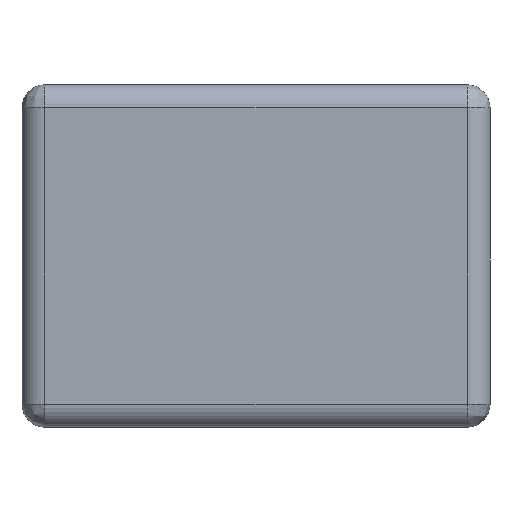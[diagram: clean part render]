
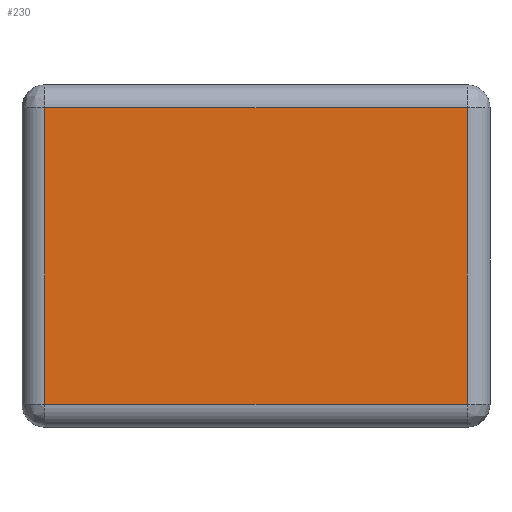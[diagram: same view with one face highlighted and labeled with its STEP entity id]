
A CAD part, top view. The second image highlights one B-rep face of the part: STEP entity #230.
In plain terms, the highlighted planar face has unit normal (0, 0, 1).
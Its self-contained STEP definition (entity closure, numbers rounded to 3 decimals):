
#6 = CARTESIAN_POINT ( 'NONE',  ( 22.5, 13., 3. ) ) ;
#10 = EDGE_CURVE ( 'NONE', #727, #255, #543, .T. ) ;
#19 = CARTESIAN_POINT ( 'NONE',  ( -22.5, -13., 3. ) ) ;
#23 = VECTOR ( 'NONE', #236, 1000. ) ;
#26 = CARTESIAN_POINT ( 'NONE',  ( -18.5, 13., 3. ) ) ;
#54 = CARTESIAN_POINT ( 'NONE',  ( -18.5, -13., 3. ) ) ;
#69 = VECTOR ( 'NONE', #479, 1000. ) ;
#72 = LINE ( 'NONE', #19, #714 ) ;
#100 = CARTESIAN_POINT ( 'NONE',  ( 18.5, 13., 3. ) ) ;
#138 = EDGE_LOOP ( 'NONE', ( #488, #258, #220, #675 ) ) ;
#171 = EDGE_CURVE ( 'NONE', #255, #267, #289, .T. ) ;
#220 = ORIENTED_EDGE ( 'NONE', *, *, #626, .F. ) ;
#230 = ADVANCED_FACE ( 'NONE', ( #317 ), #614, .T. ) ;
#236 = DIRECTION ( 'NONE',  ( 1., 0., 0. ) ) ;
#255 = VERTEX_POINT ( 'NONE', #26 ) ;
#258 = ORIENTED_EDGE ( 'NONE', *, *, #622, .F. ) ;
#267 = VERTEX_POINT ( 'NONE', #100 ) ;
#289 = LINE ( 'NONE', #6, #23 ) ;
#315 = VERTEX_POINT ( 'NONE', #739 ) ;
#317 = FACE_OUTER_BOUND ( 'NONE', #138, .T. ) ;
#320 = CARTESIAN_POINT ( 'NONE',  ( 0., 0., 3. ) ) ;
#362 = LINE ( 'NONE', #540, #69 ) ;
#430 = DIRECTION ( 'NONE',  ( 1., 0., 0. ) ) ;
#479 = DIRECTION ( 'NONE',  ( 0., -1., 0. ) ) ;
#488 = ORIENTED_EDGE ( 'NONE', *, *, #10, .F. ) ;
#540 = CARTESIAN_POINT ( 'NONE',  ( 18.5, 17., 3. ) ) ;
#543 = LINE ( 'NONE', #695, #666 ) ;
#560 = AXIS2_PLACEMENT_3D ( 'NONE', #320, #732, #430 ) ;
#614 = PLANE ( 'NONE',  #560 ) ;
#622 = EDGE_CURVE ( 'NONE', #315, #727, #72, .T. ) ;
#626 = EDGE_CURVE ( 'NONE', #267, #315, #362, .T. ) ;
#653 = DIRECTION ( 'NONE',  ( 0., 1., 0. ) ) ;
#657 = DIRECTION ( 'NONE',  ( -1., 0., 0. ) ) ;
#666 = VECTOR ( 'NONE', #653, 1000. ) ;
#675 = ORIENTED_EDGE ( 'NONE', *, *, #171, .F. ) ;
#695 = CARTESIAN_POINT ( 'NONE',  ( -18.5, -17., 3. ) ) ;
#714 = VECTOR ( 'NONE', #657, 1000. ) ;
#727 = VERTEX_POINT ( 'NONE', #54 ) ;
#732 = DIRECTION ( 'NONE',  ( 0., 0., 1. ) ) ;
#739 = CARTESIAN_POINT ( 'NONE',  ( 18.5, -13., 3. ) ) ;
